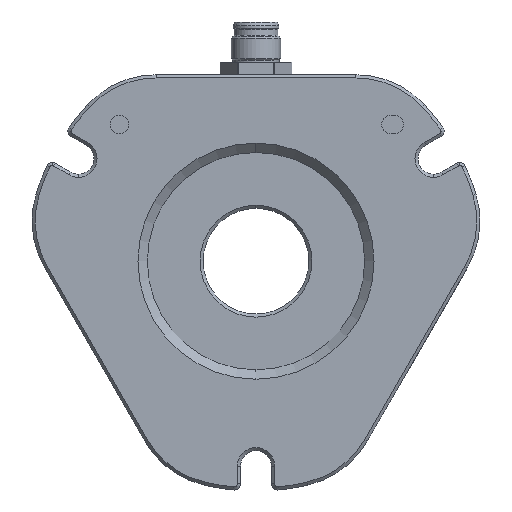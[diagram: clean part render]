
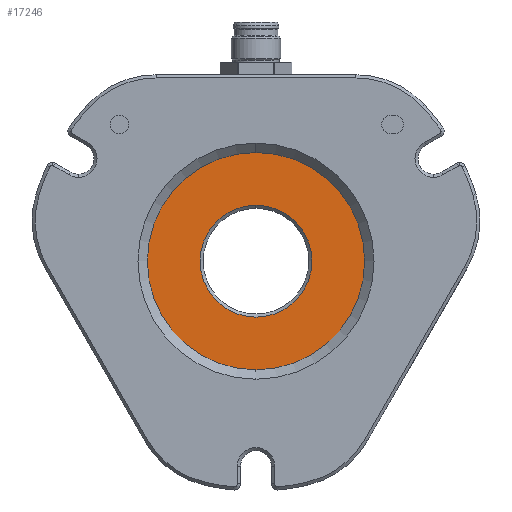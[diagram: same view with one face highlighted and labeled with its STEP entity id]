
A CAD part, front view. The second image highlights one B-rep face of the part: STEP entity #17246.
In plain terms, the highlighted planar face has unit normal (0, -1, 0).
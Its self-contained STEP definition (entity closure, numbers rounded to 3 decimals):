
#1700 = CARTESIAN_POINT ( 'NONE',  ( 0., 1.5, 0. ) ) ;
#3116 = FACE_OUTER_BOUND ( 'NONE', #27858, .T. ) ;
#4483 = EDGE_LOOP ( 'NONE', ( #31743, #34404 ) ) ;
#7157 = ORIENTED_EDGE ( 'NONE', *, *, #57223, .T. ) ;
#9991 = CARTESIAN_POINT ( 'NONE',  ( 0., 1.5, -9. ) ) ;
#10810 = AXIS2_PLACEMENT_3D ( 'NONE', #57503, #39357, #57216 ) ;
#11795 = VERTEX_POINT ( 'NONE', #17932 ) ;
#14027 = DIRECTION ( 'NONE',  ( 0., 0., -1. ) ) ;
#16884 = DIRECTION ( 'NONE',  ( 0., -1., 0. ) ) ;
#17246 = ADVANCED_FACE ( 'NONE', ( #34988, #3116 ), #51971, .T. ) ;
#17818 = EDGE_CURVE ( 'NONE', #46645, #39417, #29326, .T. ) ;
#17932 = CARTESIAN_POINT ( 'NONE',  ( 0., 1.5, 17.5 ) ) ;
#23810 = AXIS2_PLACEMENT_3D ( 'NONE', #39949, #16884, #40222 ) ;
#24026 = DIRECTION ( 'NONE',  ( 0., 1., 0. ) ) ;
#24087 = CARTESIAN_POINT ( 'NONE',  ( 0., 1.5, -17.5 ) ) ;
#24817 = DIRECTION ( 'NONE',  ( 0., 1., 0. ) ) ;
#24991 = CIRCLE ( 'NONE', #29698, 9. ) ;
#26595 = CARTESIAN_POINT ( 'NONE',  ( 0., 1.5, 0. ) ) ;
#27858 = EDGE_LOOP ( 'NONE', ( #56342, #7157 ) ) ;
#29326 = CIRCLE ( 'NONE', #40385, 9. ) ;
#29698 = AXIS2_PLACEMENT_3D ( 'NONE', #56336, #24817, #42258 ) ;
#31252 = CIRCLE ( 'NONE', #23810, 17.5 ) ;
#31541 = EDGE_CURVE ( 'NONE', #39417, #46645, #24991, .T. ) ;
#31743 = ORIENTED_EDGE ( 'NONE', *, *, #31541, .T. ) ;
#32872 = AXIS2_PLACEMENT_3D ( 'NONE', #26595, #34678, #56640 ) ;
#32876 = CARTESIAN_POINT ( 'NONE',  ( 0., 1.5, 9. ) ) ;
#33187 = CIRCLE ( 'NONE', #10810, 17.5 ) ;
#34404 = ORIENTED_EDGE ( 'NONE', *, *, #17818, .T. ) ;
#34678 = DIRECTION ( 'NONE',  ( 0., -1., 0. ) ) ;
#34988 = FACE_BOUND ( 'NONE', #4483, .T. ) ;
#39357 = DIRECTION ( 'NONE',  ( 0., -1., 0. ) ) ;
#39417 = VERTEX_POINT ( 'NONE', #9991 ) ;
#39949 = CARTESIAN_POINT ( 'NONE',  ( 0., 1.5, 0. ) ) ;
#40222 = DIRECTION ( 'NONE',  ( 0., 0., -1. ) ) ;
#40385 = AXIS2_PLACEMENT_3D ( 'NONE', #1700, #24026, #14027 ) ;
#42258 = DIRECTION ( 'NONE',  ( 0., 0., -1. ) ) ;
#46645 = VERTEX_POINT ( 'NONE', #32876 ) ;
#47172 = VERTEX_POINT ( 'NONE', #24087 ) ;
#47613 = EDGE_CURVE ( 'NONE', #47172, #11795, #31252, .T. ) ;
#51971 = PLANE ( 'NONE',  #32872 ) ;
#56336 = CARTESIAN_POINT ( 'NONE',  ( 0., 1.5, 0. ) ) ;
#56342 = ORIENTED_EDGE ( 'NONE', *, *, #47613, .T. ) ;
#56640 = DIRECTION ( 'NONE',  ( 0., 0., -1. ) ) ;
#57216 = DIRECTION ( 'NONE',  ( 0., 0., -1. ) ) ;
#57223 = EDGE_CURVE ( 'NONE', #11795, #47172, #33187, .T. ) ;
#57503 = CARTESIAN_POINT ( 'NONE',  ( 0., 1.5, 0. ) ) ;
